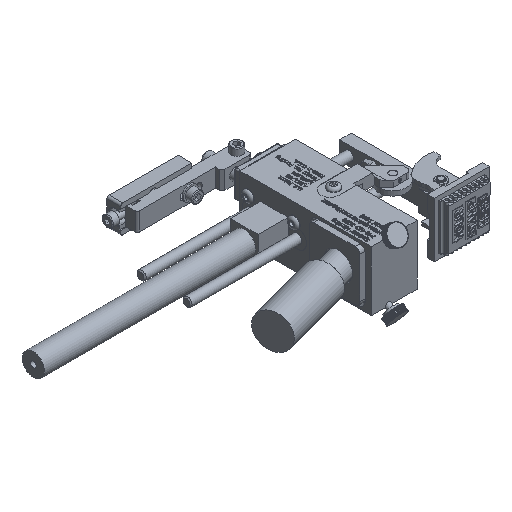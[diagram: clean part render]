
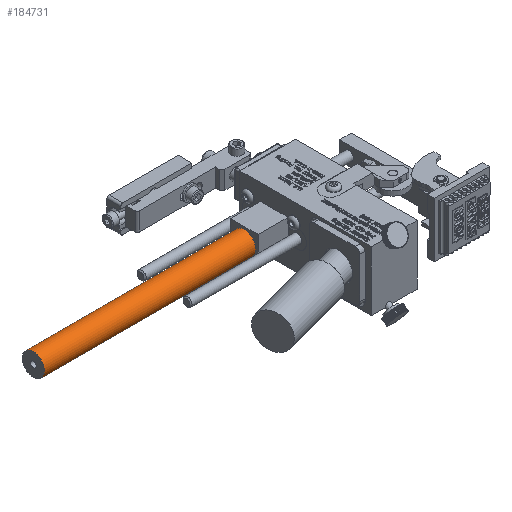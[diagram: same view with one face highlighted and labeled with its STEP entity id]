
A CAD part, isometric view. The second image highlights one B-rep face of the part: STEP entity #184731.
In plain terms, the highlighted cylindrical face has radius 7.747 mm (diameter 15.494 mm), a full revolution.
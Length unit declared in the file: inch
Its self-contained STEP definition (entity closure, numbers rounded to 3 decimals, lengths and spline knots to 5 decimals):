
#184680=CARTESIAN_POINT('',(-1.90763,0.0491,-0.5075));
#184681=VERTEX_POINT('',#184680);
#184682=CARTESIAN_POINT('',(-1.90763,0.0491,-0.8125));
#184683=DIRECTION('',(1.0,0.0,0.0));
#184684=DIRECTION('',(0.0,0.0,-1.0));
#184685=AXIS2_PLACEMENT_3D('',#184682,#184683,#184684);
#184686=CIRCLE('',#184685,0.305);
#184687=EDGE_CURVE('',#184681,#184681,#184686,.T.);
#184697=CARTESIAN_POINT('',(-7.65763,0.0491,-0.5075));
#184698=VERTEX_POINT('',#184697);
#184699=CARTESIAN_POINT('',(-7.65763,0.0491,-0.8125));
#184700=DIRECTION('',(1.0,0.0,0.0));
#184701=DIRECTION('',(0.0,0.0,-1.0));
#184702=AXIS2_PLACEMENT_3D('',#184699,#184700,#184701);
#184703=CIRCLE('',#184702,0.305);
#184704=EDGE_CURVE('',#184698,#184698,#184703,.T.);
#184720=CARTESIAN_POINT('',(-1.90763,0.0491,-0.8125));
#184721=DIRECTION('',(-1.0,0.,0.0));
#184722=DIRECTION('',(0.0,0.0,-1.0));
#184723=AXIS2_PLACEMENT_3D('',#184720,#184721,#184722);
#184724=CYLINDRICAL_SURFACE('',#184723,0.305);
#184725=ORIENTED_EDGE('',*,*,#184704,.T.);
#184726=EDGE_LOOP('',(#184725));
#184727=FACE_OUTER_BOUND('',#184726,.T.);
#184728=ORIENTED_EDGE('',*,*,#184687,.F.);
#184729=EDGE_LOOP('',(#184728));
#184730=FACE_BOUND('',#184729,.T.);
#184731=ADVANCED_FACE('',(#184727,#184730),#184724,.T.);
